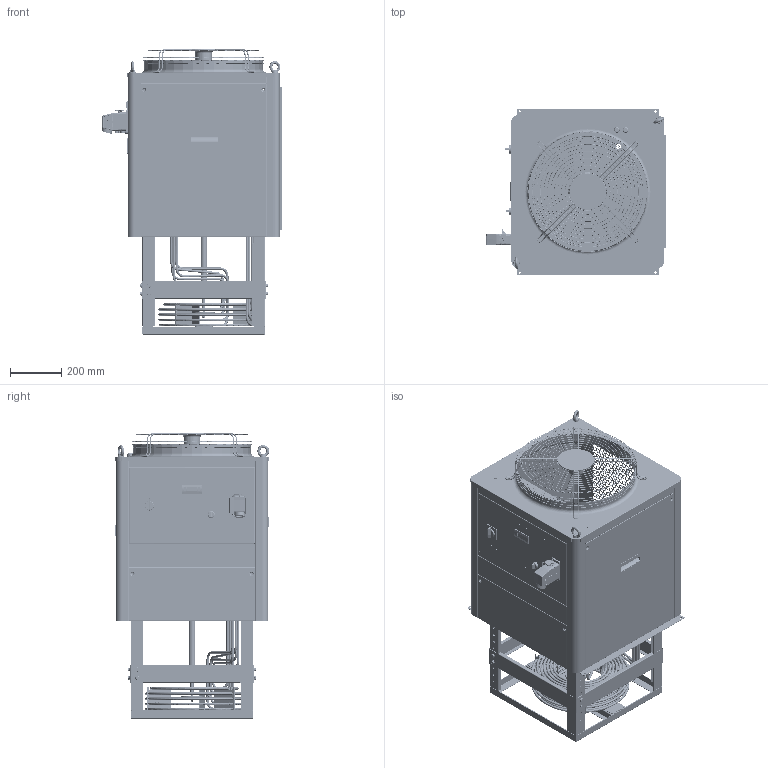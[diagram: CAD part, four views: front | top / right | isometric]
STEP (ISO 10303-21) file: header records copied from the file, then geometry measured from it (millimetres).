
FILE_DESCRIPTION (( 'STEP AP203' ), '1' );
FILE_NAME ('ECIK-045_EVAP_FLAT_R512A_REV00.STEP', '2026-03-18T14:50:20', ( '' ), ( '' ), 'SwSTEP 2.0', 'SolidWorks 2023', '' );
FILE_SCHEMA (( 'CONFIG_CONTROL_DESIGN' ));
Length unit declared in the file: millimetre
Products named in the file (61): ICQ-2HP-ICQ-1HP-1P-1.5HP-____________-1; cross recessed pan head screws gb_GB_CROSS_SCREWS_TYPE1 M5X30-30  H type-N; SE-RR-00025_000; ICQ-2HP-ICQ-1HP-1P-FB1.5p-____; ____5_ICQ-2HP-ICQ-1HP-1P-FB1.5p-____2P______-DCF-BK3P________; CR-K3-00003_000; III-________T1.5)COPY; hex nuts 1-fine pitch-grades ab gb_GB_FASTENER_NUT_SNAB1XY M8X1-N; ICQ-2HP-____(400____); CO-EL-00129; ICQ-2HP-ICQ-1HP-1P-FB1.5p-____2P______-DCF-BK3P-____; ICQ-2______.STEP; 12.7____53mm.STEP; ICQ-2HP-ICQ-1HP-1P-FB1.5p-____2P______-______________; SELETTORE_PICCOLO 54; VR-K3-00001_000; ICQ-2______; III-____COPY; TK-____2P______-DCF-________; VR-2D-00050_000; PG11_PARTE; ICQ-2HP-ICQ-1HP-1P-1.5HP-____________; CR-AG-00020_000; CR-K3-00001_000C; CR-K3-00001_000B; VR-K3-00002_001; VR-K3-00003_000; CR-K3-00004_001B; CR-K3-00004_001A; hex nut style 1 gradeab_iso_ISO - 4032 - M8 - W - N; ICQ-2HP-ICQ-1HP-1P-______-1.5HP; VR-K3-00004_000; ICQ-2J__________; ICQ-2HP-ICQ-1HP-1P-FB1.5p-____2P______-DCF-BK5P-________; SELETTORE_NERO_BK; plain washer chamfered grade a_iso_Washer ISO 7090 - 8; CR-K3-00002_000; CR-K3-00001_000; CR-K3-00004_001C; CO-EL-00051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
Assembly tree (113 placements, depth 5):
  hex nuts 1-fine pitch-grades ab gb_GB_FASTENER_NUT_SNAB1XY M8X1-N
  ECIK-045_EVAP_FLAT_R512A_REV00
    ICQ-2(2)
      ICQ-2HP-__________
        ICQ-2HP-____(400____)
        TK-____2P______-DCF-________  x2
      ICQ-2______
        ICQ-2______.STEP
          12.7____53mm.STEP
          12.7____53mm.STEP
      ICQ-2HP-ICQ-1HP-1P-FB1.5p-____1.5P______-DCF-BK3P-____
      ____5_ICQ-2HP-ICQ-1HP-1P-FB1.5p-____2P______-DCF-BK3P________  x3
      ICQ-2HP-ICQ-1HP-1P-FB1.5p-____2P______-DCF-BK3P-______
      ICQ-2HP-ICQ-1HP-1P-FB1.5p-____2P______-DCF-BK5P-________
      ICQ-2HP-ICQ-1HP-1P-FB1.5p-____  x2
      ICQ-2HP-ICQ-1HP-1P-FB1.5p-____2P______-DCF-BK3P-____1
      ICQ-2HP-ICQ-1HP-1P-1.5HP-____________
      ICQ-2HP-ICQ-1HP-1P-1.5HP-____________-1
      ICQ-2HP-ICQ-1HP-1P-______-1.5HP
      ICQ-2HP-ICQ-1HP-1P-__________-1.5HP
      ICQ-2HP-ICQ-1HP-1P-FB1.5p-____2P______-DCF-BK3P-______(____)
      ICQ-2HP-ICQ-1HP-1P-FB1.5p-____2P______-______________
      ICQ-2HP-ICQ-1HP-1P-FB1.5p-____2P______-DCF-BK3P-____  x2
      ICQ-2-______  x4
      hex nuts 1-fine pitch-grades ab gb_GB_FASTENER_NUT_SNAB1XY M8X1-N
      ICQ-2J__________  x2
      cross recessed pan head screws gb_GB_CROSS_SCREWS_TYPE1 M5X30-30  H type-N
    VR-K3-00001_000
    VR-K3-00002_001
    SE-RR-00025_000
    SELETTORE_NERO_BK
    TE-EL-00007 - EW_971_230V.STEP
    SELETTORE_PICCOLO 54
    VR-K3-00004_000
    Targhetta sicurezza
    VR-K3-00003_000
    III-________T1.5)COPY
    eyebolts gb_GB_FASTENER_SCREWS_FRS M10-N_ COPY  x2
    III-____COPY
    Gabbia telescopica 045K_CONTRATTA
      CR-K3-00003_000  x4
      CR-K3-00001_000
        CR-K3-00001_000A  x4
        CR-K3-00001_000C  x4
        CR-K3-00001_000B
      CR-K3-00002_000  x4
    CR-AG-00020_000
    hex bolt gradeb_iso_ISO 4015 - M8 x 30 x 22-N  x8
    plain washer chamfered grade a_iso_Washer ISO 7090 - 8  x17
    hex nut style 1 gradeab_iso_ISO - 4032 - M8 - W - N  x9
    AGITATORE DISCO
    PG11_PARTE  x2
    CO-EL-00051
    CO-EL-00129
    VR-2D-00050_000
    EV-AC-00032_000
    lastra protezione evaporatori GABBIA 480x480
    CR-K3-00004_001
      CR-K3-00004_001A
      CR-K3-00004_001B
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Bounding box: 707.2 x 650 x 1115.85 mm (x, y, z)
Volume: 7449711.8 mm3; surface area: 11150077.8 mm2
Topology: 151 solids, 161 shells, 13782 faces, 38091 edges, 24455 vertices
Faces by surface type: plane 8909, cylinder 3474, cone 483, bspline 463, torus 448, sphere 5
Entity records: 1004702 total; most frequent: CARTESIAN_POINT 677750, ORIENTED_EDGE 68252, DIRECTION 62476, EDGE_CURVE 34255, LINE 25306, VECTOR 25306, VERTEX_POINT 22184, AXIS2_PLACEMENT_3D 18585
